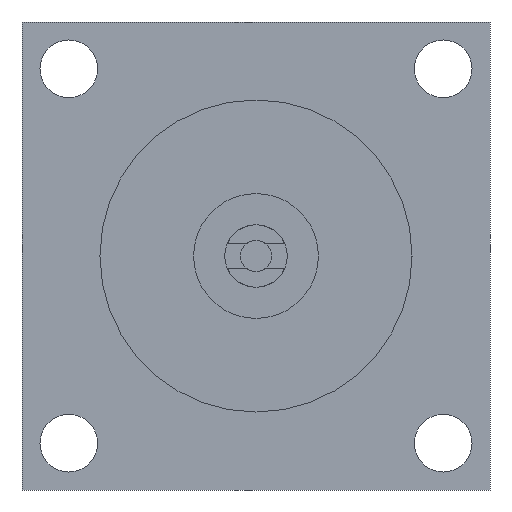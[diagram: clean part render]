
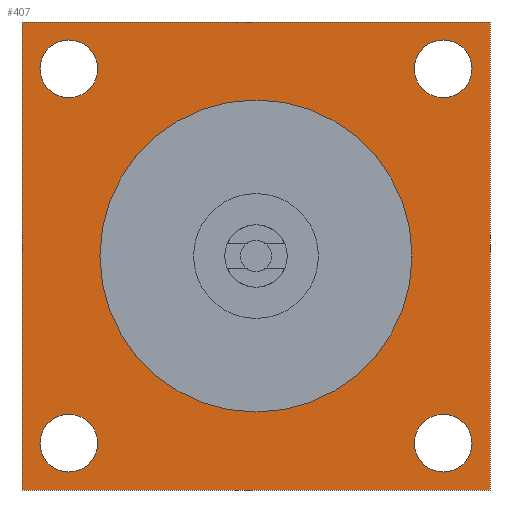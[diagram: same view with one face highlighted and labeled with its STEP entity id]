
A CAD part, left-side view. The second image highlights one B-rep face of the part: STEP entity #407.
In plain terms, the highlighted planar face has unit normal (-1, 0, 0).
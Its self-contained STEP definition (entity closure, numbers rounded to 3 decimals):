
#61 = EDGE_CURVE ( 'NONE', #1488, #912, #891, .T. ) ;
#78 = CARTESIAN_POINT ( 'NONE',  ( -20., 60., 60. ) ) ;
#82 = DIRECTION ( 'NONE',  ( -1., 0., 0. ) ) ;
#85 = VERTEX_POINT ( 'NONE', #687 ) ;
#91 = DIRECTION ( 'NONE',  ( 0., 0., 1. ) ) ;
#92 = ORIENTED_EDGE ( 'NONE', *, *, #1235, .T. ) ;
#171 = CARTESIAN_POINT ( 'NONE',  ( -20., -60., 50.75 ) ) ;
#200 = EDGE_CURVE ( 'NONE', #1686, #85, #1753, .T. ) ;
#233 = EDGE_CURVE ( 'NONE', #582, #1009, #670, .T. ) ;
#243 = EDGE_CURVE ( 'NONE', #1427, #1599, #581, .T. ) ;
#296 = DIRECTION ( 'NONE',  ( -1., 0., 0. ) ) ;
#309 = DIRECTION ( 'NONE',  ( 0., 0., 1. ) ) ;
#330 = DIRECTION ( 'NONE',  ( 0., -1., 0. ) ) ;
#349 = EDGE_CURVE ( 'NONE', #85, #1686, #435, .T. ) ;
#353 = AXIS2_PLACEMENT_3D ( 'NONE', #78, #82, #91 ) ;
#382 = FACE_BOUND ( 'NONE', #671, .T. ) ;
#404 = CARTESIAN_POINT ( 'NONE',  ( -20., 60., -69.25 ) ) ;
#405 = ORIENTED_EDGE ( 'NONE', *, *, #1359, .F. ) ;
#407 = ADVANCED_FACE ( 'NONE', ( #781, #429, #382, #1513, #1463, #1101 ), #802, .F. ) ;
#420 = LINE ( 'NONE', #1414, #727 ) ;
#429 = FACE_BOUND ( 'NONE', #853, .T. ) ;
#431 = CARTESIAN_POINT ( 'NONE',  ( -20., 0., 50. ) ) ;
#432 = CARTESIAN_POINT ( 'NONE',  ( -20., 60., -60. ) ) ;
#435 = CIRCLE ( 'NONE', #353, 9.25 ) ;
#440 = DIRECTION ( 'NONE',  ( -1., 0., 0. ) ) ;
#441 = LINE ( 'NONE', #1070, #1624 ) ;
#444 = ORIENTED_EDGE ( 'NONE', *, *, #1367, .T. ) ;
#456 = DIRECTION ( 'NONE',  ( 0., 0., 1. ) ) ;
#536 = CARTESIAN_POINT ( 'NONE',  ( -20., -60., -60. ) ) ;
#544 = DIRECTION ( 'NONE',  ( -1., 0., 0. ) ) ;
#549 = EDGE_CURVE ( 'NONE', #1175, #1413, #1243, .T. ) ;
#567 = CARTESIAN_POINT ( 'NONE',  ( -20., -60., 60. ) ) ;
#571 = DIRECTION ( 'NONE',  ( 0., 0., 1. ) ) ;
#581 = CIRCLE ( 'NONE', #971, 9.25 ) ;
#582 = VERTEX_POINT ( 'NONE', #1634 ) ;
#584 = DIRECTION ( 'NONE',  ( -1., 0., 0. ) ) ;
#594 = AXIS2_PLACEMENT_3D ( 'NONE', #1238, #296, #309 ) ;
#599 = CARTESIAN_POINT ( 'NONE',  ( -20., 75., 75. ) ) ;
#601 = DIRECTION ( 'NONE',  ( 0., 0., 1. ) ) ;
#638 = CARTESIAN_POINT ( 'NONE',  ( -20., -60., -50.75 ) ) ;
#670 = CIRCLE ( 'NONE', #881, 9.25 ) ;
#671 = EDGE_LOOP ( 'NONE', ( #1347, #405 ) ) ;
#679 = EDGE_LOOP ( 'NONE', ( #1266, #1464 ) ) ;
#682 = CARTESIAN_POINT ( 'NONE',  ( -20., -75., -75. ) ) ;
#687 = CARTESIAN_POINT ( 'NONE',  ( -20., 60., 50.75 ) ) ;
#706 = DIRECTION ( 'NONE',  ( 1., 0., 0. ) ) ;
#727 = VECTOR ( 'NONE', #330, 1000. ) ;
#728 = ORIENTED_EDGE ( 'NONE', *, *, #1187, .T. ) ;
#781 = FACE_BOUND ( 'NONE', #968, .T. ) ;
#783 = CARTESIAN_POINT ( 'NONE',  ( -20., 0., 0. ) ) ;
#784 = CARTESIAN_POINT ( 'NONE',  ( -20., 60., -60. ) ) ;
#789 = DIRECTION ( 'NONE',  ( -1., 0., 0. ) ) ;
#802 = PLANE ( 'NONE',  #1489 ) ;
#803 = DIRECTION ( 'NONE',  ( 0., 0., 1. ) ) ;
#807 = DIRECTION ( 'NONE',  ( 0., 0., -1. ) ) ;
#809 = DIRECTION ( 'NONE',  ( -1., 0., 0. ) ) ;
#812 = CIRCLE ( 'NONE', #1143, 9.25 ) ;
#814 = AXIS2_PLACEMENT_3D ( 'NONE', #1502, #1506, #1542 ) ;
#821 = CARTESIAN_POINT ( 'NONE',  ( -20., 0., 0. ) ) ;
#853 = EDGE_LOOP ( 'NONE', ( #1382, #1526 ) ) ;
#881 = AXIS2_PLACEMENT_3D ( 'NONE', #432, #440, #456 ) ;
#891 = CIRCLE ( 'NONE', #1124, 9.25 ) ;
#893 = DIRECTION ( 'NONE',  ( 0., 0., -1. ) ) ;
#912 = VERTEX_POINT ( 'NONE', #171 ) ;
#939 = CIRCLE ( 'NONE', #1844, 9.25 ) ;
#965 = EDGE_CURVE ( 'NONE', #1814, #1093, #420, .T. ) ;
#968 = EDGE_LOOP ( 'NONE', ( #1645, #1693 ) ) ;
#971 = AXIS2_PLACEMENT_3D ( 'NONE', #536, #544, #571 ) ;
#1009 = VERTEX_POINT ( 'NONE', #404 ) ;
#1035 = CARTESIAN_POINT ( 'NONE',  ( -20., 0., -50. ) ) ;
#1041 = CARTESIAN_POINT ( 'NONE',  ( -20., -75., 75. ) ) ;
#1050 = DIRECTION ( 'NONE',  ( 0., 1., 0. ) ) ;
#1053 = AXIS2_PLACEMENT_3D ( 'NONE', #821, #809, #893 ) ;
#1055 = DIRECTION ( 'NONE',  ( -1., 0., 0. ) ) ;
#1070 = CARTESIAN_POINT ( 'NONE',  ( -20., 75., 75. ) ) ;
#1071 = VECTOR ( 'NONE', #1244, 1000. ) ;
#1080 = CARTESIAN_POINT ( 'NONE',  ( -20., -60., 60. ) ) ;
#1093 = VERTEX_POINT ( 'NONE', #682 ) ;
#1099 = EDGE_CURVE ( 'NONE', #1009, #582, #1279, .T. ) ;
#1101 = FACE_OUTER_BOUND ( 'NONE', #1764, .T. ) ;
#1111 = LINE ( 'NONE', #1234, #1071 ) ;
#1124 = AXIS2_PLACEMENT_3D ( 'NONE', #567, #584, #601 ) ;
#1143 = AXIS2_PLACEMENT_3D ( 'NONE', #1080, #1055, #1176 ) ;
#1150 = EDGE_LOOP ( 'NONE', ( #1650, #1704 ) ) ;
#1167 = VERTEX_POINT ( 'NONE', #1041 ) ;
#1175 = VERTEX_POINT ( 'NONE', #1035 ) ;
#1176 = DIRECTION ( 'NONE',  ( 0., 0., 1. ) ) ;
#1187 = EDGE_CURVE ( 'NONE', #1167, #1433, #441, .T. ) ;
#1234 = CARTESIAN_POINT ( 'NONE',  ( -20., -75., 75. ) ) ;
#1235 = EDGE_CURVE ( 'NONE', #1093, #1167, #1111, .T. ) ;
#1238 = CARTESIAN_POINT ( 'NONE',  ( -20., 60., 60. ) ) ;
#1243 = CIRCLE ( 'NONE', #814, 50. ) ;
#1244 = DIRECTION ( 'NONE',  ( 0., 0., 1. ) ) ;
#1266 = ORIENTED_EDGE ( 'NONE', *, *, #200, .F. ) ;
#1279 = CIRCLE ( 'NONE', #1487, 9.25 ) ;
#1305 = CARTESIAN_POINT ( 'NONE',  ( -20., -60., 69.25 ) ) ;
#1347 = ORIENTED_EDGE ( 'NONE', *, *, #243, .F. ) ;
#1359 = EDGE_CURVE ( 'NONE', #1599, #1427, #939, .T. ) ;
#1367 = EDGE_CURVE ( 'NONE', #1433, #1814, #1692, .T. ) ;
#1382 = ORIENTED_EDGE ( 'NONE', *, *, #61, .F. ) ;
#1413 = VERTEX_POINT ( 'NONE', #431 ) ;
#1414 = CARTESIAN_POINT ( 'NONE',  ( -20., 75., -75. ) ) ;
#1416 = CARTESIAN_POINT ( 'NONE',  ( -20., -60., -69.25 ) ) ;
#1427 = VERTEX_POINT ( 'NONE', #638 ) ;
#1430 = EDGE_CURVE ( 'NONE', #1413, #1175, #1546, .T. ) ;
#1433 = VERTEX_POINT ( 'NONE', #599 ) ;
#1463 = FACE_BOUND ( 'NONE', #1150, .T. ) ;
#1464 = ORIENTED_EDGE ( 'NONE', *, *, #349, .F. ) ;
#1465 = EDGE_CURVE ( 'NONE', #912, #1488, #812, .T. ) ;
#1487 = AXIS2_PLACEMENT_3D ( 'NONE', #784, #789, #803 ) ;
#1488 = VERTEX_POINT ( 'NONE', #1305 ) ;
#1489 = AXIS2_PLACEMENT_3D ( 'NONE', #783, #706, #807 ) ;
#1502 = CARTESIAN_POINT ( 'NONE',  ( -20., 0., 0. ) ) ;
#1506 = DIRECTION ( 'NONE',  ( -1., 0., 0. ) ) ;
#1513 = FACE_BOUND ( 'NONE', #679, .T. ) ;
#1526 = ORIENTED_EDGE ( 'NONE', *, *, #1465, .F. ) ;
#1542 = DIRECTION ( 'NONE',  ( 0., 0., -1. ) ) ;
#1546 = CIRCLE ( 'NONE', #1053, 50. ) ;
#1547 = CARTESIAN_POINT ( 'NONE',  ( -20., 60., 69.25 ) ) ;
#1559 = ORIENTED_EDGE ( 'NONE', *, *, #965, .T. ) ;
#1599 = VERTEX_POINT ( 'NONE', #1416 ) ;
#1624 = VECTOR ( 'NONE', #1050, 1000. ) ;
#1634 = CARTESIAN_POINT ( 'NONE',  ( -20., 60., -50.75 ) ) ;
#1643 = VECTOR ( 'NONE', #1825, 1000. ) ;
#1645 = ORIENTED_EDGE ( 'NONE', *, *, #549, .F. ) ;
#1650 = ORIENTED_EDGE ( 'NONE', *, *, #233, .F. ) ;
#1686 = VERTEX_POINT ( 'NONE', #1547 ) ;
#1692 = LINE ( 'NONE', #1818, #1643 ) ;
#1693 = ORIENTED_EDGE ( 'NONE', *, *, #1430, .F. ) ;
#1704 = ORIENTED_EDGE ( 'NONE', *, *, #1099, .F. ) ;
#1739 = CARTESIAN_POINT ( 'NONE',  ( -20., 75., -75. ) ) ;
#1753 = CIRCLE ( 'NONE', #594, 9.25 ) ;
#1755 = CARTESIAN_POINT ( 'NONE',  ( -20., -60., -60. ) ) ;
#1764 = EDGE_LOOP ( 'NONE', ( #1559, #92, #728, #444 ) ) ;
#1767 = DIRECTION ( 'NONE',  ( -1., 0., 0. ) ) ;
#1780 = DIRECTION ( 'NONE',  ( 0., 0., 1. ) ) ;
#1814 = VERTEX_POINT ( 'NONE', #1739 ) ;
#1818 = CARTESIAN_POINT ( 'NONE',  ( -20., 75., 75. ) ) ;
#1825 = DIRECTION ( 'NONE',  ( 0., 0., -1. ) ) ;
#1844 = AXIS2_PLACEMENT_3D ( 'NONE', #1755, #1767, #1780 ) ;
